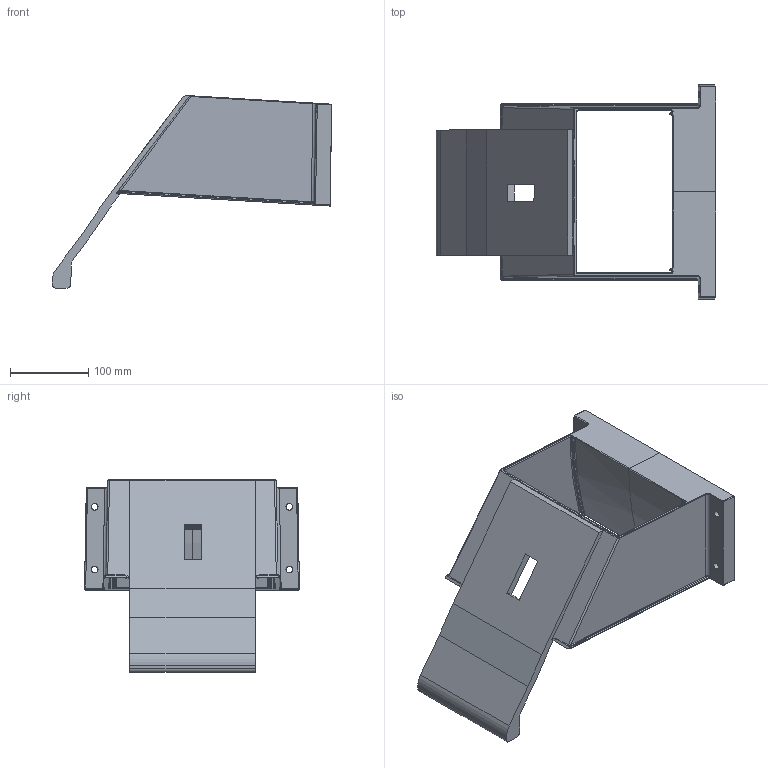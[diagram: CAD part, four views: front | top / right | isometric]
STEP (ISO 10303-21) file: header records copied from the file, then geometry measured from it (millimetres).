
FILE_DESCRIPTION(/* description */ ('Unknown'),/* implementation_level */ '2;1');
FILE_NAME(/* name */ 'portacuneo-SEMPLIFICATO 14-04-25',/* time_stamp */ '2025-04-14T16:07:31+02:00',/* author */ ('Unknown'),/* organization */ ('Unknown'),/* preprocessor_version */ 'ST-DEVELOPER v18.102',/* originating_system */ 'Solid Edge',/* authorisation */ 'Unknown');
FILE_SCHEMA (('AUTOMOTIVE_DESIGN {1 0 10303 214 3 1 1}'));
Length unit declared in the file: millimetre
Products named in the file (1): portacuneo-SEMPLIFICATO Copia
Bounding box: 357.01 x 274.45 x 245.97 mm (x, y, z)
Volume: 1631611.7 mm3; surface area: 418372.4 mm2
Topology: 1 solids, 5 shells, 404 faces, 1205 edges, 792 vertices
Faces by surface type: bspline 225, cylinder 121, plane 58
Full cylindrical faces by diameter (mm): 8.849 x2
Entity records: 17780 total; most frequent: CARTESIAN_POINT 9362, ORIENTED_EDGE 2366, EDGE_CURVE 1183, DIRECTION 842, VERTEX_POINT 790, B_SPLINE_CURVE_WITH_KNOTS 695, EDGE_LOOP 417, FACE_BOUND 417
